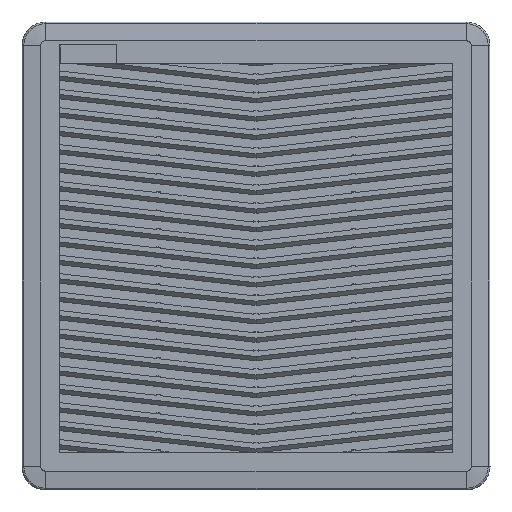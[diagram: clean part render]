
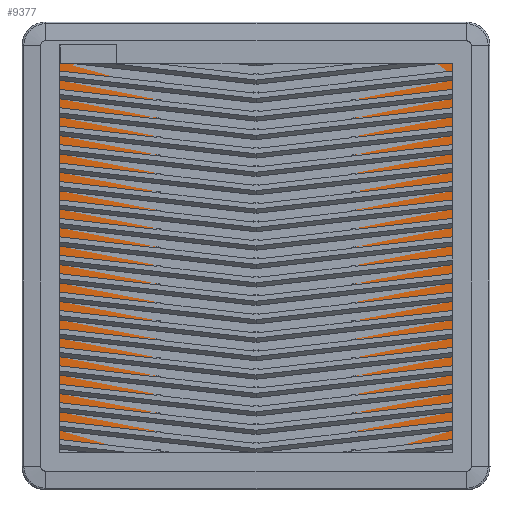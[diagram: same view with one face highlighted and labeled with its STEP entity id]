
A CAD part, top view. The second image highlights one B-rep face of the part: STEP entity #9377.
In plain terms, the highlighted planar face has unit normal (0, 0, 1).
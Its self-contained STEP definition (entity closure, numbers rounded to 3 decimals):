
#915 = ORIENTED_EDGE ( 'NONE', *, *, #14581, .F. ) ;
#961 = VECTOR ( 'NONE', #5728, 1000. ) ;
#2362 = EDGE_CURVE ( 'NONE', #14262, #38610, #8258, .T. ) ;
#2839 = CARTESIAN_POINT ( 'NONE',  ( -111.96, -112.04, 6.009 ) ) ;
#4058 = AXIS2_PLACEMENT_3D ( 'NONE', #20509, #39296, #10630 ) ;
#4533 = DIRECTION ( 'NONE',  ( 1., 0., 0. ) ) ;
#5728 = DIRECTION ( 'NONE',  ( -1., 0., 0. ) ) ;
#5764 = EDGE_CURVE ( 'NONE', #15584, #18992, #15838, .T. ) ;
#7919 = AXIS2_PLACEMENT_3D ( 'NONE', #23596, #29897, #4533 ) ;
#8258 = CIRCLE ( 'NONE', #31687, 10.5 ) ;
#9377 = ADVANCED_FACE ( 'NONE', ( #17549 ), #24020, .T. ) ;
#10630 = DIRECTION ( 'NONE',  ( 1., 0., 0. ) ) ;
#12009 = CIRCLE ( 'NONE', #26023, 10.5 ) ;
#12724 = ORIENTED_EDGE ( 'NONE', *, *, #37238, .F. ) ;
#12932 = CIRCLE ( 'NONE', #15607, 10.5 ) ;
#13104 = ORIENTED_EDGE ( 'NONE', *, *, #5764, .F. ) ;
#13400 = VERTEX_POINT ( 'NONE', #36792 ) ;
#13527 = DIRECTION ( 'NONE',  ( 0., 1., 0. ) ) ;
#13676 = EDGE_CURVE ( 'NONE', #38610, #15849, #36543, .T. ) ;
#14262 = VERTEX_POINT ( 'NONE', #24709 ) ;
#14581 = EDGE_CURVE ( 'NONE', #18992, #13400, #26801, .T. ) ;
#15162 = CARTESIAN_POINT ( 'NONE',  ( 122.54, -112.04, 6.009 ) ) ;
#15584 = VERTEX_POINT ( 'NONE', #24054 ) ;
#15607 = AXIS2_PLACEMENT_3D ( 'NONE', #16748, #26378, #29509 ) ;
#15754 = ORIENTED_EDGE ( 'NONE', *, *, #2362, .F. ) ;
#15838 = LINE ( 'NONE', #28598, #23707 ) ;
#15849 = VERTEX_POINT ( 'NONE', #31248 ) ;
#16504 = VERTEX_POINT ( 'NONE', #34021 ) ;
#16699 = CARTESIAN_POINT ( 'NONE',  ( -122.46, -112.04, 6.009 ) ) ;
#16748 = CARTESIAN_POINT ( 'NONE',  ( 112.04, 114.46, 6.009 ) ) ;
#17549 = FACE_OUTER_BOUND ( 'NONE', #38391, .T. ) ;
#17693 = VECTOR ( 'NONE', #31391, 1000. ) ;
#17739 = ORIENTED_EDGE ( 'NONE', *, *, #13676, .F. ) ;
#18050 = EDGE_CURVE ( 'NONE', #15849, #16504, #12009, .T. ) ;
#18992 = VERTEX_POINT ( 'NONE', #15162 ) ;
#20197 = EDGE_CURVE ( 'NONE', #16504, #29688, #24501, .T. ) ;
#20509 = CARTESIAN_POINT ( 'NONE',  ( 112.04, -112.04, 6.009 ) ) ;
#21416 = DIRECTION ( 'NONE',  ( 0., 0., -1. ) ) ;
#21822 = CARTESIAN_POINT ( 'NONE',  ( 112.04, 124.96, 6.009 ) ) ;
#23227 = EDGE_CURVE ( 'NONE', #29688, #15584, #12932, .T. ) ;
#23596 = CARTESIAN_POINT ( 'NONE',  ( 0.04, -0.04, 6.009 ) ) ;
#23707 = VECTOR ( 'NONE', #28798, 1000. ) ;
#24020 = PLANE ( 'NONE',  #7919 ) ;
#24054 = CARTESIAN_POINT ( 'NONE',  ( 122.54, 114.46, 6.009 ) ) ;
#24501 = LINE ( 'NONE', #40967, #17693 ) ;
#24709 = CARTESIAN_POINT ( 'NONE',  ( -111.96, -122.54, 6.009 ) ) ;
#26023 = AXIS2_PLACEMENT_3D ( 'NONE', #28120, #21416, #37512 ) ;
#26378 = DIRECTION ( 'NONE',  ( 0., 0., -1. ) ) ;
#26379 = ORIENTED_EDGE ( 'NONE', *, *, #20197, .F. ) ;
#26617 = VECTOR ( 'NONE', #13527, 1000. ) ;
#26801 = CIRCLE ( 'NONE', #4058, 10.5 ) ;
#27941 = CARTESIAN_POINT ( 'NONE',  ( 112.04, -122.54, 6.009 ) ) ;
#28120 = CARTESIAN_POINT ( 'NONE',  ( -111.96, 114.46, 6.009 ) ) ;
#28598 = CARTESIAN_POINT ( 'NONE',  ( 122.54, -112.04, 6.009 ) ) ;
#28798 = DIRECTION ( 'NONE',  ( 0., -1., 0. ) ) ;
#29509 = DIRECTION ( 'NONE',  ( 1., 0., 0. ) ) ;
#29688 = VERTEX_POINT ( 'NONE', #21822 ) ;
#29897 = DIRECTION ( 'NONE',  ( 0., 0., 1. ) ) ;
#31248 = CARTESIAN_POINT ( 'NONE',  ( -122.46, 114.46, 6.009 ) ) ;
#31391 = DIRECTION ( 'NONE',  ( 1., 0., 0. ) ) ;
#31687 = AXIS2_PLACEMENT_3D ( 'NONE', #2839, #37407, #34485 ) ;
#34021 = CARTESIAN_POINT ( 'NONE',  ( -111.96, 124.96, 6.009 ) ) ;
#34422 = LINE ( 'NONE', #27941, #961 ) ;
#34485 = DIRECTION ( 'NONE',  ( 1., 0., 0. ) ) ;
#36543 = LINE ( 'NONE', #16699, #26617 ) ;
#36792 = CARTESIAN_POINT ( 'NONE',  ( 112.04, -122.54, 6.009 ) ) ;
#37238 = EDGE_CURVE ( 'NONE', #13400, #14262, #34422, .T. ) ;
#37407 = DIRECTION ( 'NONE',  ( 0., 0., -1. ) ) ;
#37512 = DIRECTION ( 'NONE',  ( 1., 0., 0. ) ) ;
#38391 = EDGE_LOOP ( 'NONE', ( #38459, #17739, #15754, #12724, #915, #13104, #39146, #26379 ) ) ;
#38459 = ORIENTED_EDGE ( 'NONE', *, *, #18050, .F. ) ;
#38610 = VERTEX_POINT ( 'NONE', #40726 ) ;
#39146 = ORIENTED_EDGE ( 'NONE', *, *, #23227, .F. ) ;
#39296 = DIRECTION ( 'NONE',  ( 0., 0., -1. ) ) ;
#40726 = CARTESIAN_POINT ( 'NONE',  ( -122.46, -112.04, 6.009 ) ) ;
#40967 = CARTESIAN_POINT ( 'NONE',  ( -111.96, 124.96, 6.009 ) ) ;
